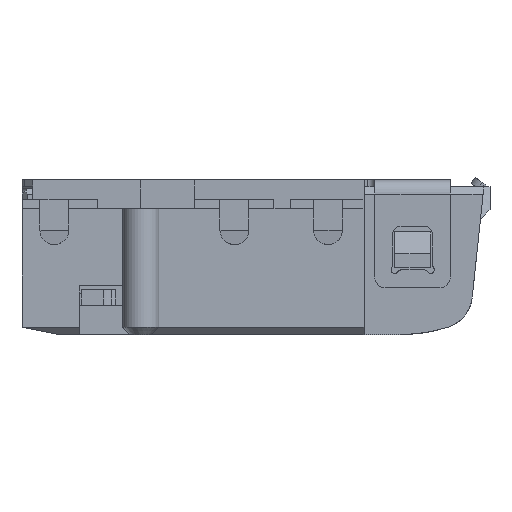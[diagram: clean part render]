
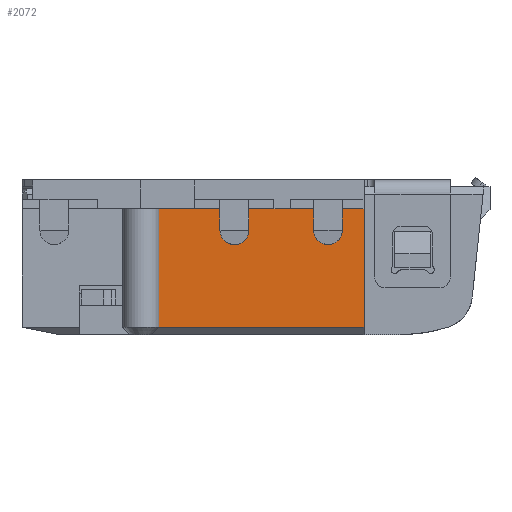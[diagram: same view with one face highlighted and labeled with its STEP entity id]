
A CAD part, left-side view. The second image highlights one B-rep face of the part: STEP entity #2072.
In plain terms, the highlighted planar face has unit normal (-1, 0, 0).
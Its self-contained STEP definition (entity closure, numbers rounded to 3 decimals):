
#190 = EDGE_CURVE ( 'NONE', #13556, #14924, #31152, .T. ) ;
#408 = PLANE ( 'NONE',  #20901 ) ;
#903 = CARTESIAN_POINT ( 'NONE',  ( -3.5, -6.5, 0. ) ) ;
#1826 = ORIENTED_EDGE ( 'NONE', *, *, #190, .T. ) ;
#2072 = ADVANCED_FACE ( 'NONE', ( #26149 ), #408, .F. ) ;
#4420 = VECTOR ( 'NONE', #7690, 1000. ) ;
#4861 = CARTESIAN_POINT ( 'NONE',  ( -3.5, -3., -4.1 ) ) ;
#5989 = CARTESIAN_POINT ( 'NONE',  ( -3.5, -3., -0.8 ) ) ;
#6079 = DIRECTION ( 'NONE',  ( 0., 0., 1. ) ) ;
#6603 = DIRECTION ( 'NONE',  ( 0., 0., 1. ) ) ;
#7690 = DIRECTION ( 'NONE',  ( 0., 0., 1. ) ) ;
#8265 = LINE ( 'NONE', #20849, #11854 ) ;
#9184 = DIRECTION ( 'NONE',  ( 1., 0., 0. ) ) ;
#9727 = VERTEX_POINT ( 'NONE', #21706 ) ;
#10763 = VECTOR ( 'NONE', #25977, 1000. ) ;
#11854 = VECTOR ( 'NONE', #6603, 1000. ) ;
#12957 = EDGE_CURVE ( 'NONE', #14924, #13678, #21949, .T. ) ;
#13556 = VERTEX_POINT ( 'NONE', #4861 ) ;
#13678 = VERTEX_POINT ( 'NONE', #25688 ) ;
#14666 = EDGE_LOOP ( 'NONE', ( #29538, #21632, #1826, #28475 ) ) ;
#14924 = VERTEX_POINT ( 'NONE', #24718 ) ;
#16735 = DIRECTION ( 'NONE',  ( 0., -1., 0. ) ) ;
#17436 = EDGE_CURVE ( 'NONE', #9727, #13678, #8265, .T. ) ;
#20849 = CARTESIAN_POINT ( 'NONE',  ( -3.5, 2.7, -5.94 ) ) ;
#20901 = AXIS2_PLACEMENT_3D ( 'NONE', #903, #9184, #6079 ) ;
#21632 = ORIENTED_EDGE ( 'NONE', *, *, #32545, .T. ) ;
#21706 = CARTESIAN_POINT ( 'NONE',  ( -3.5, 2.7, -4.1 ) ) ;
#21949 = LINE ( 'NONE', #5989, #10763 ) ;
#22242 = LINE ( 'NONE', #25368, #25382 ) ;
#24718 = CARTESIAN_POINT ( 'NONE',  ( -3.5, -3., -0.8 ) ) ;
#25368 = CARTESIAN_POINT ( 'NONE',  ( -3.5, -6.5, -4.1 ) ) ;
#25382 = VECTOR ( 'NONE', #16735, 1000. ) ;
#25688 = CARTESIAN_POINT ( 'NONE',  ( -3.5, 2.7, -0.8 ) ) ;
#25977 = DIRECTION ( 'NONE',  ( 0., 1., 0. ) ) ;
#26149 = FACE_OUTER_BOUND ( 'NONE', #14666, .T. ) ;
#27421 = CARTESIAN_POINT ( 'NONE',  ( -3.5, -3., -13. ) ) ;
#28475 = ORIENTED_EDGE ( 'NONE', *, *, #12957, .T. ) ;
#29538 = ORIENTED_EDGE ( 'NONE', *, *, #17436, .F. ) ;
#31152 = LINE ( 'NONE', #27421, #4420 ) ;
#32545 = EDGE_CURVE ( 'NONE', #9727, #13556, #22242, .T. ) ;
